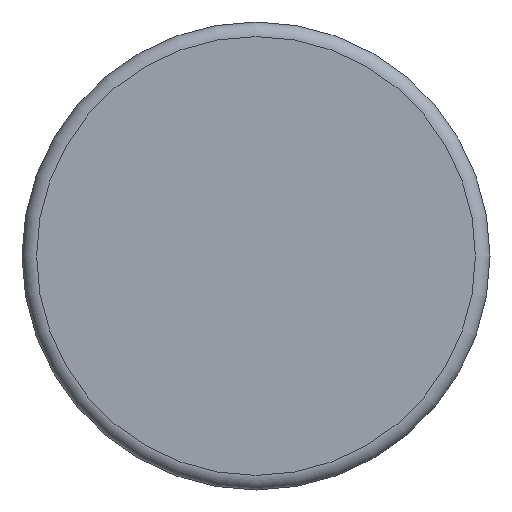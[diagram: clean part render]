
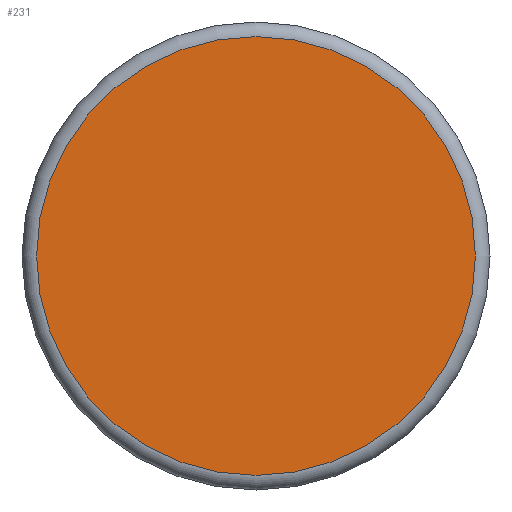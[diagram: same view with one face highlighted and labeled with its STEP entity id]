
A CAD part, front view. The second image highlights one B-rep face of the part: STEP entity #231.
In plain terms, the highlighted planar face has unit normal (0, -1, 0).
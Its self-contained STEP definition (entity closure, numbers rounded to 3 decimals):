
#231 = ADVANCED_FACE( '', ( #437 ), #438, .F. );
#437 = FACE_OUTER_BOUND( '', #619, .T. );
#438 = PLANE( '', #620 );
#619 = EDGE_LOOP( '', ( #990 ) );
#620 = AXIS2_PLACEMENT_3D( '', #991, #992, #993 );
#990 = ORIENTED_EDGE( '', *, *, #1032, .T. );
#991 = CARTESIAN_POINT( '', ( 15., 0., 0. ) );
#992 = DIRECTION( '', ( 0., 1., 0. ) );
#993 = DIRECTION( '', ( 0., 0., 1. ) );
#1032 = EDGE_CURVE( '', #1189, #1189, #1190, .T. );
#1189 = VERTEX_POINT( '', #1438 );
#1190 = CIRCLE( '', #1439, 15. );
#1438 = CARTESIAN_POINT( '', ( 0., 0., -15. ) );
#1439 = AXIS2_PLACEMENT_3D( '', #1823, #1824, #1825 );
#1823 = CARTESIAN_POINT( '', ( 0., 0., 0. ) );
#1824 = DIRECTION( '', ( 0., -1., 0. ) );
#1825 = DIRECTION( '', ( 0., 0., -1. ) );
